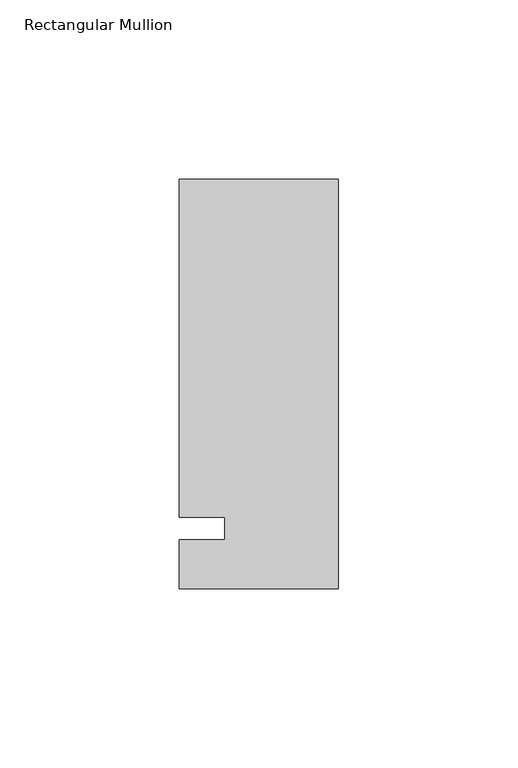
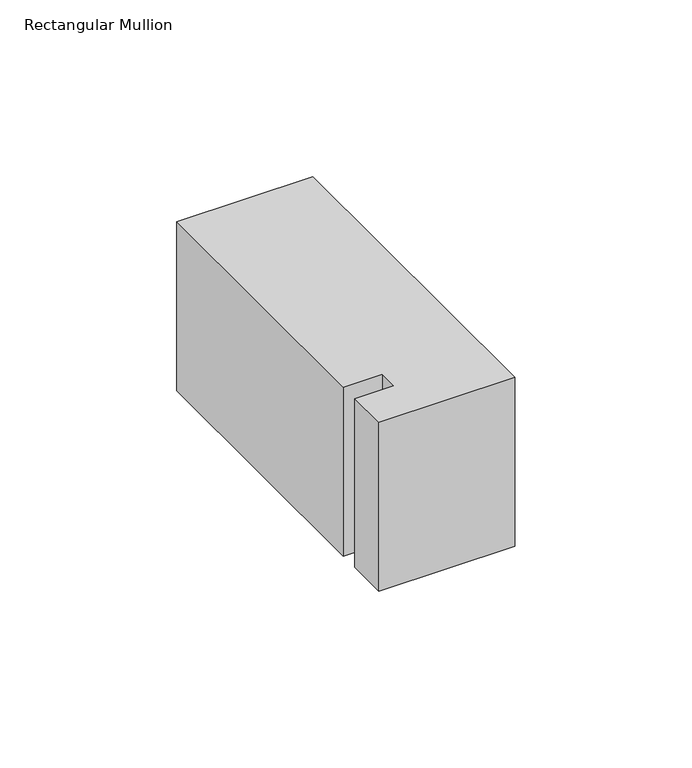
"""IFC4 building model written with IfcOpenShell, lengths in millimetres: member geometry, Rectangular Mullion : Kawneer-TRIFAB_VG_450_BACK_SB_Jamb R."""

from ifc_helpers import new_model, si_unit, frame, origin, place, context, project, spatial, polyline, outline, extrude, source, transform, mapped, element, save


def rectangular_mullion_39e7f09f(model_context):
    return source(origin(), model_context, "Body", "SweptSolid", [
        extrude(outline(polyline([(-44.45, -16.8081154), (-44.45, -3.175), (-31.7482296, -3.175), (-31.7482296, 3.175), (-44.45, 3.175), (-44.45, 97.4918846), (0.0, 97.4918846), (0.0, -16.8081154), (-44.45, -16.8081154)])), frame((0.0, 0.0, -58.3094027), z_axis=(0.0, 0.0, 1.0), x_axis=(1.0, 0.0, 0.0)), (0.0, 0.0, 1.0), 58.3094027),
    ])


if __name__ == "__main__":
    model = new_model("IFC4")
    model_context = context("Model", 3, world=origin())
    ifc_project = project(units=[si_unit("LENGTHUNIT", "METRE", prefix="MILLI")], contexts=[model_context])
    site = spatial("IfcSite", under=ifc_project)
    building = spatial("IfcBuilding", under=site)
    placement = place(None, origin())
    rectangular_mullion_shape = rectangular_mullion_39e7f09f(model_context)
    element("IfcMember", 1, ObjectType="Rectangular Mullion : Kawneer-TRIFAB_VG_450_BACK_SB_Jamb R", at=placement, inside=building, context=model_context, shape_type="MappedRepresentation", body=[
        mapped(rectangular_mullion_shape, transform((0.0, 0.0, 0.0), x_axis=(1.0, 0.0, 0.0), y_axis=(0.0, 1.0, 0.0), z_axis=(0.0, 0.0, 1.0))),
    ])
    save(model, "model.ifc")
